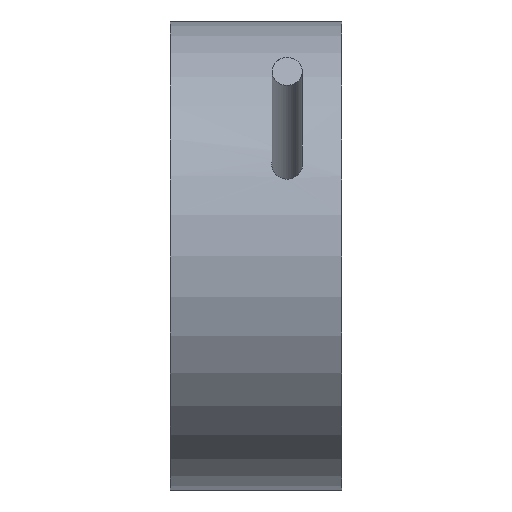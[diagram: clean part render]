
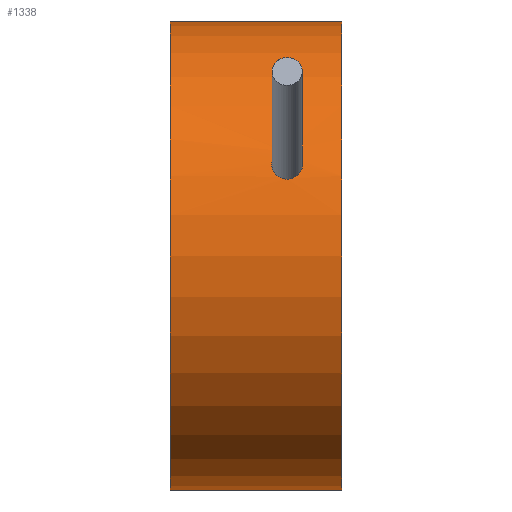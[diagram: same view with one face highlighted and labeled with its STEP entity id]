
A CAD part, left-side view. The second image highlights one B-rep face of the part: STEP entity #1338.
In plain terms, the highlighted cylindrical face has radius 30 mm (diameter 60 mm), a partial arc.
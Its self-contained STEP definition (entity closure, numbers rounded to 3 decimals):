
#13 = ORIENTED_EDGE ( 'NONE', *, *, #514, .F. ) ;
#56 = CARTESIAN_POINT ( 'NONE',  ( 0., 3., 30. ) ) ;
#91 = VERTEX_POINT ( 'NONE', #56 ) ;
#128 = VERTEX_POINT ( 'NONE', #3288 ) ;
#164 = CARTESIAN_POINT ( 'NONE',  ( -27.992, 11.735, 10.792 ) ) ;
#189 = CARTESIAN_POINT ( 'NONE',  ( -26.992, 11.323, 13.093 ) ) ;
#216 = EDGE_LOOP ( 'NONE', ( #729, #767 ) ) ;
#254 = CARTESIAN_POINT ( 'NONE',  ( -26.863, 10.888, 13.355 ) ) ;
#274 = CARTESIAN_POINT ( 'NONE',  ( -26.955, 8.781, 13.17 ) ) ;
#333 = VERTEX_POINT ( 'NONE', #3919 ) ;
#344 = CARTESIAN_POINT ( 'NONE',  ( -27.407, 8.053, 12.204 ) ) ;
#417 = CARTESIAN_POINT ( 'NONE',  ( 0., 25., 0. ) ) ;
#514 = EDGE_CURVE ( 'NONE', #3663, #91, #1828, .T. ) ;
#529 = CARTESIAN_POINT ( 'NONE',  ( -26.891, 11.004, 13.299 ) ) ;
#530 = AXIS2_PLACEMENT_3D ( 'NONE', #417, #2554, #813 ) ;
#556 = CARTESIAN_POINT ( 'NONE',  ( -26.772, 10., 13.537 ) ) ;
#594 = CARTESIAN_POINT ( 'NONE',  ( -28.335, 10., 9.855 ) ) ;
#688 = CARTESIAN_POINT ( 'NONE',  ( -27.112, 8.401, 12.844 ) ) ;
#708 = CARTESIAN_POINT ( 'NONE',  ( -28.198, 8.78, 10.242 ) ) ;
#729 = ORIENTED_EDGE ( 'NONE', *, *, #4248, .T. ) ;
#734 = AXIS2_PLACEMENT_3D ( 'NONE', #3092, #2401, #3494 ) ;
#767 = ORIENTED_EDGE ( 'NONE', *, *, #3050, .T. ) ;
#813 = DIRECTION ( 'NONE',  ( 0., 0., -1. ) ) ;
#914 = B_SPLINE_CURVE_WITH_KNOTS ( 'NONE', 3,
 ( #4182, #2073, #2380, #3521, #3903, #1725, #1753, #274, #1698, #688, #3548, #344, #1771, #3120, #4570, #4598, #1364, #4163, #944, #2182, #4011, #3309, #708, #1457, #3666, #1066, #3593, #3259, #2893, #2852 ),
 .UNSPECIFIED., .F., .F.,
 ( 4, 2, 2, 2, 2, 2, 2, 2, 2, 2, 2, 2, 2, 2, 4 ),
 ( 0., 0., 0.001, 0.001, 0.002, 0.002, 0.003, 0.004, 0.004, 0.004, 0.005, 0.005, 0.005, 0.006, 0.006 ),
 .UNSPECIFIED. ) ;
#944 = CARTESIAN_POINT ( 'NONE',  ( -27.992, 8.265, 10.792 ) ) ;
#994 = FACE_BOUND ( 'NONE', #216, .T. ) ;
#1005 = B_SPLINE_CURVE_WITH_KNOTS ( 'NONE', 3,
 ( #594, #2030, #1613, #2733, #3456, #2658, #3384, #164, #3783, #4093, #1630, #3408, #4186, #3766, #4470, #3042, #1984, #1593, #3427, #3001, #1243, #189, #2712, #529, #254, #3077, #4498, #556 ),
 .UNSPECIFIED., .F., .F.,
 ( 4, 2, 2, 2, 2, 2, 2, 2, 2, 2, 2, 2, 2, 4 ),
 ( 0.006, 0.007, 0.008, 0.008, 0.009, 0.009, 0.009, 0.01, 0.01, 0.011, 0.011, 0.011, 0.012, 0.013 ),
 .UNSPECIFIED. ) ;
#1031 = VECTOR ( 'NONE', #3958, 1000. ) ;
#1066 = CARTESIAN_POINT ( 'NONE',  ( -28.301, 9.356, 9.951 ) ) ;
#1191 = AXIS2_PLACEMENT_3D ( 'NONE', #3819, #3109, #4557 ) ;
#1243 = CARTESIAN_POINT ( 'NONE',  ( -27.072, 11.507, 12.927 ) ) ;
#1287 = FACE_OUTER_BOUND ( 'NONE', #2210, .T. ) ;
#1304 = LINE ( 'NONE', #2045, #2982 ) ;
#1338 = ADVANCED_FACE ( 'NONE', ( #1287, #994 ), #3470, .T. ) ;
#1364 = CARTESIAN_POINT ( 'NONE',  ( -27.86, 8.102, 11.127 ) ) ;
#1382 = CARTESIAN_POINT ( 'NONE',  ( 0., 25., 30. ) ) ;
#1457 = CARTESIAN_POINT ( 'NONE',  ( -28.247, 8.997, 10.105 ) ) ;
#1588 = CIRCLE ( 'NONE', #530, 30. ) ;
#1593 = CARTESIAN_POINT ( 'NONE',  ( -27.257, 11.798, 12.532 ) ) ;
#1613 = CARTESIAN_POINT ( 'NONE',  ( -28.318, 10.524, 9.905 ) ) ;
#1630 = CARTESIAN_POINT ( 'NONE',  ( -27.814, 11.936, 11.242 ) ) ;
#1686 = VERTEX_POINT ( 'NONE', #3680 ) ;
#1689 = EDGE_CURVE ( 'NONE', #3663, #1686, #1588, .T. ) ;
#1698 = CARTESIAN_POINT ( 'NONE',  ( -26.992, 8.678, 13.094 ) ) ;
#1725 = CARTESIAN_POINT ( 'NONE',  ( -26.863, 9.113, 13.355 ) ) ;
#1753 = CARTESIAN_POINT ( 'NONE',  ( -26.891, 8.998, 13.3 ) ) ;
#1771 = CARTESIAN_POINT ( 'NONE',  ( -27.513, 8., 11.963 ) ) ;
#1828 = LINE ( 'NONE', #2507, #1031 ) ;
#1984 = CARTESIAN_POINT ( 'NONE',  ( -27.358, 11.898, 12.311 ) ) ;
#2030 = CARTESIAN_POINT ( 'NONE',  ( -28.335, 10.261, 9.855 ) ) ;
#2045 = CARTESIAN_POINT ( 'NONE',  ( 0., 0., -30. ) ) ;
#2073 = CARTESIAN_POINT ( 'NONE',  ( -26.772, 9.868, 13.537 ) ) ;
#2158 = ORIENTED_EDGE ( 'NONE', *, *, #2453, .T. ) ;
#2182 = CARTESIAN_POINT ( 'NONE',  ( -28.069, 8.409, 10.59 ) ) ;
#2210 = EDGE_LOOP ( 'NONE', ( #13, #3823, #2158, #3776 ) ) ;
#2380 = CARTESIAN_POINT ( 'NONE',  ( -26.778, 9.738, 13.525 ) ) ;
#2401 = DIRECTION ( 'NONE',  ( 0., -1., 0. ) ) ;
#2453 = EDGE_CURVE ( 'NONE', #1686, #4018, #1304, .T. ) ;
#2473 = EDGE_CURVE ( 'NONE', #91, #4018, #2827, .T. ) ;
#2507 = CARTESIAN_POINT ( 'NONE',  ( 0., 0., 30. ) ) ;
#2554 = DIRECTION ( 'NONE',  ( 0., -1., 0. ) ) ;
#2658 = CARTESIAN_POINT ( 'NONE',  ( -28.105, 11.505, 10.493 ) ) ;
#2712 = CARTESIAN_POINT ( 'NONE',  ( -26.956, 11.222, 13.168 ) ) ;
#2733 = CARTESIAN_POINT ( 'NONE',  ( -28.251, 11.006, 10.093 ) ) ;
#2827 = CIRCLE ( 'NONE', #1191, 30. ) ;
#2852 = CARTESIAN_POINT ( 'NONE',  ( -28.335, 10., 9.855 ) ) ;
#2893 = CARTESIAN_POINT ( 'NONE',  ( -28.335, 9.869, 9.855 ) ) ;
#2982 = VECTOR ( 'NONE', #4174, 1000. ) ;
#3001 = CARTESIAN_POINT ( 'NONE',  ( -27.117, 11.592, 12.833 ) ) ;
#3042 = CARTESIAN_POINT ( 'NONE',  ( -27.41, 11.937, 12.196 ) ) ;
#3050 = EDGE_CURVE ( 'NONE', #333, #128, #1005, .T. ) ;
#3077 = CARTESIAN_POINT ( 'NONE',  ( -26.796, 10.527, 13.489 ) ) ;
#3092 = CARTESIAN_POINT ( 'NONE',  ( 0., 0., 0. ) ) ;
#3109 = DIRECTION ( 'NONE',  ( 0., -1., 0. ) ) ;
#3120 = CARTESIAN_POINT ( 'NONE',  ( -27.666, 8., 11.602 ) ) ;
#3259 = CARTESIAN_POINT ( 'NONE',  ( -28.331, 9.737, 9.867 ) ) ;
#3288 = CARTESIAN_POINT ( 'NONE',  ( -26.772, 10., 13.537 ) ) ;
#3309 = CARTESIAN_POINT ( 'NONE',  ( -28.169, 8.679, 10.32 ) ) ;
#3384 = CARTESIAN_POINT ( 'NONE',  ( -28.069, 11.59, 10.589 ) ) ;
#3393 = CARTESIAN_POINT ( 'NONE',  ( 0., 3., -30. ) ) ;
#3408 = CARTESIAN_POINT ( 'NONE',  ( -27.717, 11.987, 11.479 ) ) ;
#3427 = CARTESIAN_POINT ( 'NONE',  ( -27.209, 11.737, 12.637 ) ) ;
#3456 = CARTESIAN_POINT ( 'NONE',  ( -28.201, 11.229, 10.233 ) ) ;
#3470 = CYLINDRICAL_SURFACE ( 'NONE', #734, 30. ) ;
#3494 = DIRECTION ( 'NONE',  ( 0., 0., -1. ) ) ;
#3521 = CARTESIAN_POINT ( 'NONE',  ( -26.801, 9.482, 13.48 ) ) ;
#3548 = CARTESIAN_POINT ( 'NONE',  ( -27.207, 8.252, 12.642 ) ) ;
#3593 = CARTESIAN_POINT ( 'NONE',  ( -28.314, 9.481, 9.916 ) ) ;
#3663 = VERTEX_POINT ( 'NONE', #1382 ) ;
#3666 = CARTESIAN_POINT ( 'NONE',  ( -28.268, 9.113, 10.046 ) ) ;
#3680 = CARTESIAN_POINT ( 'NONE',  ( 0., 25., -30. ) ) ;
#3766 = CARTESIAN_POINT ( 'NONE',  ( -27.564, 12., 11.842 ) ) ;
#3776 = ORIENTED_EDGE ( 'NONE', *, *, #2473, .F. ) ;
#3783 = CARTESIAN_POINT ( 'NONE',  ( -27.95, 11.797, 10.899 ) ) ;
#3819 = CARTESIAN_POINT ( 'NONE',  ( 0., 3., 0. ) ) ;
#3823 = ORIENTED_EDGE ( 'NONE', *, *, #1689, .T. ) ;
#3903 = CARTESIAN_POINT ( 'NONE',  ( -26.818, 9.355, 13.445 ) ) ;
#3919 = CARTESIAN_POINT ( 'NONE',  ( -28.335, 10., 9.855 ) ) ;
#3958 = DIRECTION ( 'NONE',  ( 0., -1., 0. ) ) ;
#4011 = CARTESIAN_POINT ( 'NONE',  ( -28.104, 8.492, 10.495 ) ) ;
#4018 = VERTEX_POINT ( 'NONE', #3393 ) ;
#4093 = CARTESIAN_POINT ( 'NONE',  ( -27.861, 11.897, 11.124 ) ) ;
#4163 = CARTESIAN_POINT ( 'NONE',  ( -27.949, 8.202, 10.902 ) ) ;
#4174 = DIRECTION ( 'NONE',  ( 0., -1., 0. ) ) ;
#4182 = CARTESIAN_POINT ( 'NONE',  ( -26.772, 10., 13.537 ) ) ;
#4186 = CARTESIAN_POINT ( 'NONE',  ( -27.667, 12., 11.599 ) ) ;
#4248 = EDGE_CURVE ( 'NONE', #128, #333, #914, .T. ) ;
#4470 = CARTESIAN_POINT ( 'NONE',  ( -27.512, 11.987, 11.962 ) ) ;
#4498 = CARTESIAN_POINT ( 'NONE',  ( -26.772, 10.264, 13.537 ) ) ;
#4557 = DIRECTION ( 'NONE',  ( 0., 0., -1. ) ) ;
#4570 = CARTESIAN_POINT ( 'NONE',  ( -27.717, 8.013, 11.48 ) ) ;
#4598 = CARTESIAN_POINT ( 'NONE',  ( -27.814, 8.064, 11.243 ) ) ;
